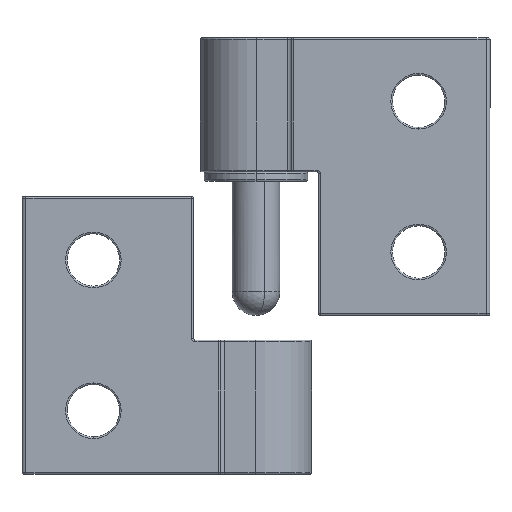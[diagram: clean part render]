
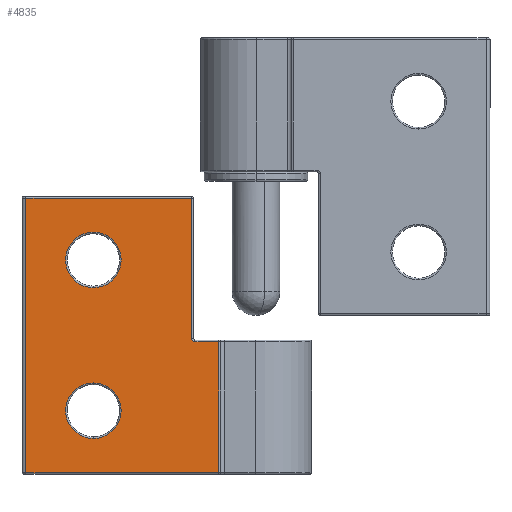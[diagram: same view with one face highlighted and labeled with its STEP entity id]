
A CAD part, front view. The second image highlights one B-rep face of the part: STEP entity #4835.
In plain terms, the highlighted planar face has unit normal (0, -1, 0).
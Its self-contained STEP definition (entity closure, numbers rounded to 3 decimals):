
#123 = DIRECTION ( 'NONE',  ( 0., 0., 1. ) ) ;
#453 = FACE_OUTER_BOUND ( 'NONE', #3885, .T. ) ;
#674 = CARTESIAN_POINT ( 'NONE',  ( -29., -8.4, 17.3 ) ) ;
#683 = CARTESIAN_POINT ( 'NONE',  ( -4.693, -8.4, -0.8 ) ) ;
#972 = DIRECTION ( 'NONE',  ( 0., 1., 0. ) ) ;
#1261 = ORIENTED_EDGE ( 'NONE', *, *, #9796, .T. ) ;
#1296 = EDGE_LOOP ( 'NONE', ( #4723, #8690 ) ) ;
#1553 = AXIS2_PLACEMENT_3D ( 'NONE', #2464, #9774, #2561 ) ;
#1561 = DIRECTION ( 'NONE',  ( -1., 0., 0. ) ) ;
#1575 = VERTEX_POINT ( 'NONE', #3852 ) ;
#1710 = AXIS2_PLACEMENT_3D ( 'NONE', #8452, #11655, #6290 ) ;
#1752 = VERTEX_POINT ( 'NONE', #1902 ) ;
#1902 = CARTESIAN_POINT ( 'NONE',  ( -20.5, -8.4, -6. ) ) ;
#1918 = CARTESIAN_POINT ( 'NONE',  ( -29., -8.4, -17.5 ) ) ;
#1930 = DIRECTION ( 'NONE',  ( 0., 0., 1. ) ) ;
#2071 = EDGE_CURVE ( 'NONE', #12954, #2269, #11235, .T. ) ;
#2135 = DIRECTION ( 'NONE',  ( 0., 1., 0. ) ) ;
#2269 = VERTEX_POINT ( 'NONE', #674 ) ;
#2441 = VECTOR ( 'NONE', #1561, 1000. ) ;
#2464 = CARTESIAN_POINT ( 'NONE',  ( -7.7, -8.4, -0.4 ) ) ;
#2533 = DIRECTION ( 'NONE',  ( 0., 0., 1. ) ) ;
#2561 = DIRECTION ( 'NONE',  ( 0., 0., 1. ) ) ;
#2586 = CARTESIAN_POINT ( 'NONE',  ( -20.5, -8.4, -13. ) ) ;
#2646 = CARTESIAN_POINT ( 'NONE',  ( -29., -8.4, -17.3 ) ) ;
#2949 = EDGE_CURVE ( 'NONE', #9401, #12593, #7054, .T. ) ;
#2990 = DIRECTION ( 'NONE',  ( 0., 0., 1. ) ) ;
#3074 = DIRECTION ( 'NONE',  ( -1., 0., 0. ) ) ;
#3183 = ORIENTED_EDGE ( 'NONE', *, *, #7496, .T. ) ;
#3217 = LINE ( 'NONE', #4881, #5663 ) ;
#3307 = DIRECTION ( 'NONE',  ( 0., 0., 1. ) ) ;
#3343 = CARTESIAN_POINT ( 'NONE',  ( -8.1, -8.4, -0.4 ) ) ;
#3721 = CARTESIAN_POINT ( 'NONE',  ( -20.5, -8.4, 13. ) ) ;
#3742 = EDGE_CURVE ( 'NONE', #4304, #10375, #8500, .T. ) ;
#3852 = CARTESIAN_POINT ( 'NONE',  ( -8.1, -8.4, 17.3 ) ) ;
#3867 = DIRECTION ( 'NONE',  ( 0., 0., 1. ) ) ;
#3872 = EDGE_CURVE ( 'NONE', #1752, #11936, #6201, .T. ) ;
#3885 = EDGE_LOOP ( 'NONE', ( #1261, #10915, #7363, #13622, #8125, #5051, #12972 ) ) ;
#3972 = ORIENTED_EDGE ( 'NONE', *, *, #2949, .T. ) ;
#4304 = VERTEX_POINT ( 'NONE', #683 ) ;
#4352 = VECTOR ( 'NONE', #3074, 1000. ) ;
#4378 = VERTEX_POINT ( 'NONE', #3343 ) ;
#4402 = AXIS2_PLACEMENT_3D ( 'NONE', #7701, #13008, #2533 ) ;
#4505 = DIRECTION ( 'NONE',  ( 0., 1., 0. ) ) ;
#4715 = DIRECTION ( 'NONE',  ( 1., 0., 0. ) ) ;
#4723 = ORIENTED_EDGE ( 'NONE', *, *, #3872, .T. ) ;
#4816 = CARTESIAN_POINT ( 'NONE',  ( -29.5, -8.4, -0.8 ) ) ;
#4835 = ADVANCED_FACE ( 'NONE', ( #10824, #8825, #453 ), #10929, .F. ) ;
#4881 = CARTESIAN_POINT ( 'NONE',  ( -4.693, -8.4, 17.5 ) ) ;
#4990 = CIRCLE ( 'NONE', #11781, 3.5 ) ;
#5051 = ORIENTED_EDGE ( 'NONE', *, *, #6554, .T. ) ;
#5283 = VECTOR ( 'NONE', #2990, 1000. ) ;
#5649 = EDGE_CURVE ( 'NONE', #12407, #4304, #3217, .T. ) ;
#5663 = VECTOR ( 'NONE', #3867, 1000. ) ;
#6201 = CIRCLE ( 'NONE', #6582, 3.5 ) ;
#6290 = DIRECTION ( 'NONE',  ( 0., 0., 1. ) ) ;
#6295 = VECTOR ( 'NONE', #10038, 1000. ) ;
#6554 = EDGE_CURVE ( 'NONE', #1575, #2269, #8941, .T. ) ;
#6582 = AXIS2_PLACEMENT_3D ( 'NONE', #8221, #972, #1930 ) ;
#6821 = CARTESIAN_POINT ( 'NONE',  ( -20.5, -8.4, 6. ) ) ;
#6881 = CARTESIAN_POINT ( 'NONE',  ( -8.1, -8.4, 17.5 ) ) ;
#7054 = CIRCLE ( 'NONE', #1710, 3.5 ) ;
#7269 = EDGE_CURVE ( 'NONE', #4378, #1575, #9259, .T. ) ;
#7363 = ORIENTED_EDGE ( 'NONE', *, *, #3742, .T. ) ;
#7496 = EDGE_CURVE ( 'NONE', #12593, #9401, #4990, .T. ) ;
#7701 = CARTESIAN_POINT ( 'NONE',  ( -29.5, -8.4, 17.5 ) ) ;
#7730 = VECTOR ( 'NONE', #4715, 1000. ) ;
#7827 = CARTESIAN_POINT ( 'NONE',  ( -4.693, -8.4, -17.3 ) ) ;
#7962 = AXIS2_PLACEMENT_3D ( 'NONE', #10823, #4505, #3307 ) ;
#8125 = ORIENTED_EDGE ( 'NONE', *, *, #7269, .T. ) ;
#8221 = CARTESIAN_POINT ( 'NONE',  ( -20.5, -8.4, -9.5 ) ) ;
#8452 = CARTESIAN_POINT ( 'NONE',  ( -20.5, -8.4, 9.5 ) ) ;
#8499 = EDGE_CURVE ( 'NONE', #11936, #1752, #9421, .T. ) ;
#8500 = LINE ( 'NONE', #4816, #2441 ) ;
#8690 = ORIENTED_EDGE ( 'NONE', *, *, #8499, .T. ) ;
#8825 = FACE_BOUND ( 'NONE', #12769, .T. ) ;
#8941 = LINE ( 'NONE', #10253, #4352 ) ;
#9161 = CARTESIAN_POINT ( 'NONE',  ( -7.7, -8.4, -0.8 ) ) ;
#9259 = LINE ( 'NONE', #6881, #6295 ) ;
#9401 = VERTEX_POINT ( 'NONE', #6821 ) ;
#9421 = CIRCLE ( 'NONE', #7962, 3.5 ) ;
#9774 = DIRECTION ( 'NONE',  ( 0., -1., 0. ) ) ;
#9796 = EDGE_CURVE ( 'NONE', #12954, #12407, #12047, .T. ) ;
#9862 = CARTESIAN_POINT ( 'NONE',  ( -4.5, -8.4, -17.3 ) ) ;
#10038 = DIRECTION ( 'NONE',  ( 0., 0., 1. ) ) ;
#10175 = EDGE_CURVE ( 'NONE', #4378, #10375, #11874, .T. ) ;
#10253 = CARTESIAN_POINT ( 'NONE',  ( -29.5, -8.4, 17.3 ) ) ;
#10375 = VERTEX_POINT ( 'NONE', #9161 ) ;
#10823 = CARTESIAN_POINT ( 'NONE',  ( -20.5, -8.4, -9.5 ) ) ;
#10824 = FACE_BOUND ( 'NONE', #1296, .T. ) ;
#10915 = ORIENTED_EDGE ( 'NONE', *, *, #5649, .T. ) ;
#10929 = PLANE ( 'NONE',  #4402 ) ;
#11235 = LINE ( 'NONE', #1918, #5283 ) ;
#11637 = CARTESIAN_POINT ( 'NONE',  ( -20.5, -8.4, 9.5 ) ) ;
#11655 = DIRECTION ( 'NONE',  ( 0., 1., 0. ) ) ;
#11781 = AXIS2_PLACEMENT_3D ( 'NONE', #11637, #2135, #123 ) ;
#11874 = CIRCLE ( 'NONE', #1553, 0.4 ) ;
#11936 = VERTEX_POINT ( 'NONE', #2586 ) ;
#12047 = LINE ( 'NONE', #9862, #7730 ) ;
#12407 = VERTEX_POINT ( 'NONE', #7827 ) ;
#12593 = VERTEX_POINT ( 'NONE', #3721 ) ;
#12769 = EDGE_LOOP ( 'NONE', ( #3183, #3972 ) ) ;
#12954 = VERTEX_POINT ( 'NONE', #2646 ) ;
#12972 = ORIENTED_EDGE ( 'NONE', *, *, #2071, .F. ) ;
#13008 = DIRECTION ( 'NONE',  ( 0., 1., 0. ) ) ;
#13622 = ORIENTED_EDGE ( 'NONE', *, *, #10175, .F. ) ;
